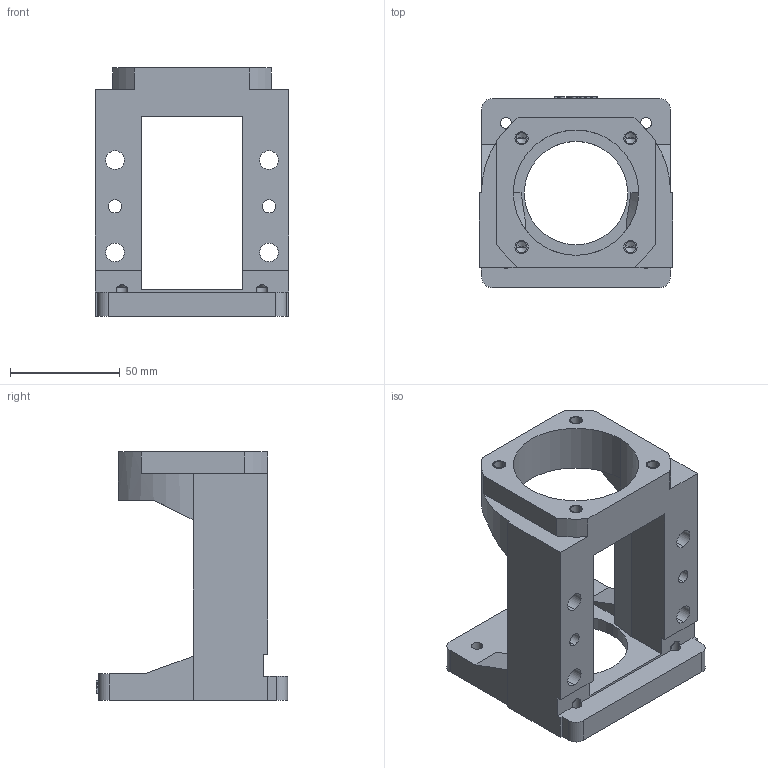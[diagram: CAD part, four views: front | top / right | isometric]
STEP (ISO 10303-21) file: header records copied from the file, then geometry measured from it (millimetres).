
FILE_DESCRIPTION((''),'2;1');
FILE_NAME('M80EP-FKA20-A','2020-07-27T',('Administrator'),(''),'PRO/ENGINEER BY PARAMETRIC TECHNOLOGY CORPORATION, 2010280','PRO/ENGINEER BY PARAMETRIC TECHNOLOGY CORPORATION, 2010280','');
FILE_SCHEMA(('CONFIG_CONTROL_DESIGN'));
Length unit declared in the file: millimetre
Products named in the file (1): M80EP-FKA20-A
Bounding box: 88 x 87 x 113 mm (x, y, z)
Volume: 212703.5 mm3; surface area: 55846.1 mm2
Topology: 1 solids, 5 shells, 250 faces, 689 edges, 450 vertices
Faces by surface type: plane 122, cylinder 62, extrusion 44, cone 22
Entity records: 8531 total; most frequent: CARTESIAN_POINT 2185, ORIENTED_EDGE 1338, DIRECTION 1183, EDGE_CURVE 677, VECTOR 473, VERTEX_POINT 450, LINE 429, AXIS2_PLACEMENT_3D 355
